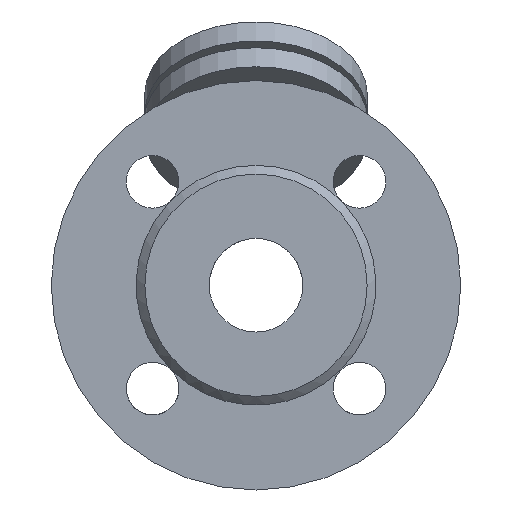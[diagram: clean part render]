
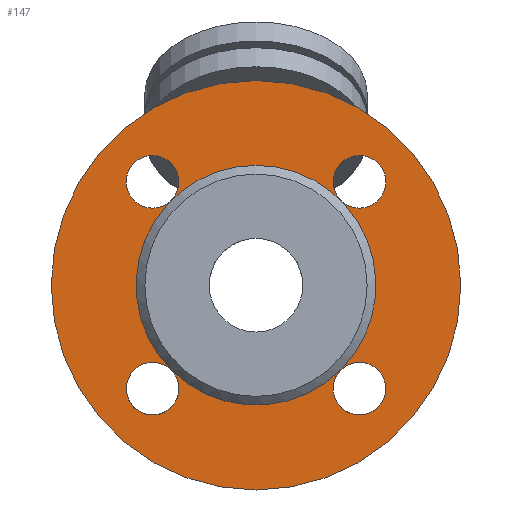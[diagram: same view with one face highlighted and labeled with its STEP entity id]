
A CAD part, front view. The second image highlights one B-rep face of the part: STEP entity #147.
In plain terms, the highlighted planar face has unit normal (0, -1, 0).
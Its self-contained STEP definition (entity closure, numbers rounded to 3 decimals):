
#147=ADVANCED_FACE('',(#475,#477,#479,#481,#483,#485),#487,.T.);
#475=FACE_BOUND('',#476,.T.);
#476=EDGE_LOOP('',(#770));
#477=FACE_BOUND('',#478,.T.);
#478=EDGE_LOOP('',(#771,#772));
#479=FACE_BOUND('',#480,.T.);
#480=EDGE_LOOP('',(#773));
#481=FACE_BOUND('',#482,.T.);
#482=EDGE_LOOP('',(#774,#775,#776));
#483=FACE_BOUND('',#484,.T.);
#484=EDGE_LOOP('',(#777));
#485=FACE_BOUND('',#486,.T.);
#486=EDGE_LOOP('',(#778,#779));
#487=PLANE('',#488);
#488=AXIS2_PLACEMENT_3D('',#489,#490,#491);
#489=CARTESIAN_POINT('',(0.,-87.,0.));
#490=DIRECTION('',(0.,-1.,0.));
#491=DIRECTION('',(0.,0.,1.));
#770=ORIENTED_EDGE('',*,*,#875,.F.);
#771=ORIENTED_EDGE('',*,*,#876,.T.);
#772=ORIENTED_EDGE('',*,*,#877,.T.);
#773=ORIENTED_EDGE('',*,*,#878,.T.);
#774=ORIENTED_EDGE('',*,*,#865,.T.);
#775=ORIENTED_EDGE('',*,*,#867,.T.);
#776=ORIENTED_EDGE('',*,*,#866,.T.);
#777=ORIENTED_EDGE('',*,*,#879,.T.);
#778=ORIENTED_EDGE('',*,*,#880,.T.);
#779=ORIENTED_EDGE('',*,*,#881,.T.);
#865=EDGE_CURVE('',#944,#945,#946,.T.);
#866=EDGE_CURVE('',#947,#944,#948,.T.);
#867=EDGE_CURVE('',#945,#947,#949,.T.);
#875=EDGE_CURVE('',#962,#962,#963,.T.);
#876=EDGE_CURVE('',#947,#964,#965,.F.);
#877=EDGE_CURVE('',#964,#947,#966,.F.);
#878=EDGE_CURVE('',#967,#967,#968,.F.);
#879=EDGE_CURVE('',#969,#969,#970,.F.);
#880=EDGE_CURVE('',#945,#971,#972,.F.);
#881=EDGE_CURVE('',#971,#945,#973,.F.);
#944=VERTEX_POINT('',#1243);
#945=VERTEX_POINT('',#1244);
#946=CIRCLE('',#1245,41.);
#947=VERTEX_POINT('',#1249);
#948=CIRCLE('',#1250,41.);
#949=CIRCLE('',#1254,41.);
#962=VERTEX_POINT('',#1291);
#963=CIRCLE('',#1292,70.);
#964=VERTEX_POINT('',#1296);
#965=CIRCLE('',#1297,9.);
#966=CIRCLE('',#1301,9.);
#967=VERTEX_POINT('',#1305);
#968=CIRCLE('',#1306,9.);
#969=VERTEX_POINT('',#1310);
#970=CIRCLE('',#1311,9.);
#971=VERTEX_POINT('',#1315);
#972=CIRCLE('',#1316,9.);
#973=CIRCLE('',#1320,9.);
#1243=CARTESIAN_POINT('',(0.,-87.,41.));
#1244=CARTESIAN_POINT('',(28.991,-87.,-28.991));
#1245=AXIS2_PLACEMENT_3D('',#1246,#1247,#1248);
#1246=CARTESIAN_POINT('',(0.,-87.,0.));
#1247=DIRECTION('',(0.,1.,0.));
#1248=DIRECTION('',(0.,0.,1.));
#1249=CARTESIAN_POINT('',(-28.991,-87.,-28.991));
#1250=AXIS2_PLACEMENT_3D('',#1251,#1252,#1253);
#1251=CARTESIAN_POINT('',(0.,-87.,0.));
#1252=DIRECTION('',(0.,1.,0.));
#1253=DIRECTION('',(-0.707,0.,-0.707));
#1254=AXIS2_PLACEMENT_3D('',#1255,#1256,#1257);
#1255=CARTESIAN_POINT('',(0.,-87.,0.));
#1256=DIRECTION('',(0.,1.,0.));
#1257=DIRECTION('',(0.707,0.,-0.707));
#1291=CARTESIAN_POINT('',(0.,-87.,70.));
#1292=AXIS2_PLACEMENT_3D('',#1293,#1294,#1295);
#1293=CARTESIAN_POINT('',(0.,-87.,0.));
#1294=DIRECTION('',(0.,1.,0.));
#1295=DIRECTION('',(0.,0.,1.));
#1296=CARTESIAN_POINT('',(-35.355,-87.,-26.355));
#1297=AXIS2_PLACEMENT_3D('',#1298,#1299,#1300);
#1298=CARTESIAN_POINT('',(-35.355,-87.,-35.355));
#1299=DIRECTION('',(0.,-1.,0.));
#1300=DIRECTION('',(0.,0.,1.));
#1301=AXIS2_PLACEMENT_3D('',#1302,#1303,#1304);
#1302=CARTESIAN_POINT('',(-35.355,-87.,-35.355));
#1303=DIRECTION('',(0.,-1.,0.));
#1304=DIRECTION('',(0.707,0.,0.707));
#1305=CARTESIAN_POINT('',(-26.355,-87.,35.355));
#1306=AXIS2_PLACEMENT_3D('',#1307,#1308,#1309);
#1307=CARTESIAN_POINT('',(-35.355,-87.,35.355));
#1308=DIRECTION('',(0.,-1.,0.));
#1309=DIRECTION('',(1.,0.,0.));
#1310=CARTESIAN_POINT('',(35.355,-87.,26.355));
#1311=AXIS2_PLACEMENT_3D('',#1312,#1313,#1314);
#1312=CARTESIAN_POINT('',(35.355,-87.,35.355));
#1313=DIRECTION('',(0.,-1.,0.));
#1314=DIRECTION('',(0.,0.,-1.));
#1315=CARTESIAN_POINT('',(26.355,-87.,-35.355));
#1316=AXIS2_PLACEMENT_3D('',#1317,#1318,#1319);
#1317=CARTESIAN_POINT('',(35.355,-87.,-35.355));
#1318=DIRECTION('',(0.,-1.,0.));
#1319=DIRECTION('',(-1.,0.,0.));
#1320=AXIS2_PLACEMENT_3D('',#1321,#1322,#1323);
#1321=CARTESIAN_POINT('',(35.355,-87.,-35.355));
#1322=DIRECTION('',(0.,-1.,0.));
#1323=DIRECTION('',(-0.707,0.,0.707));
